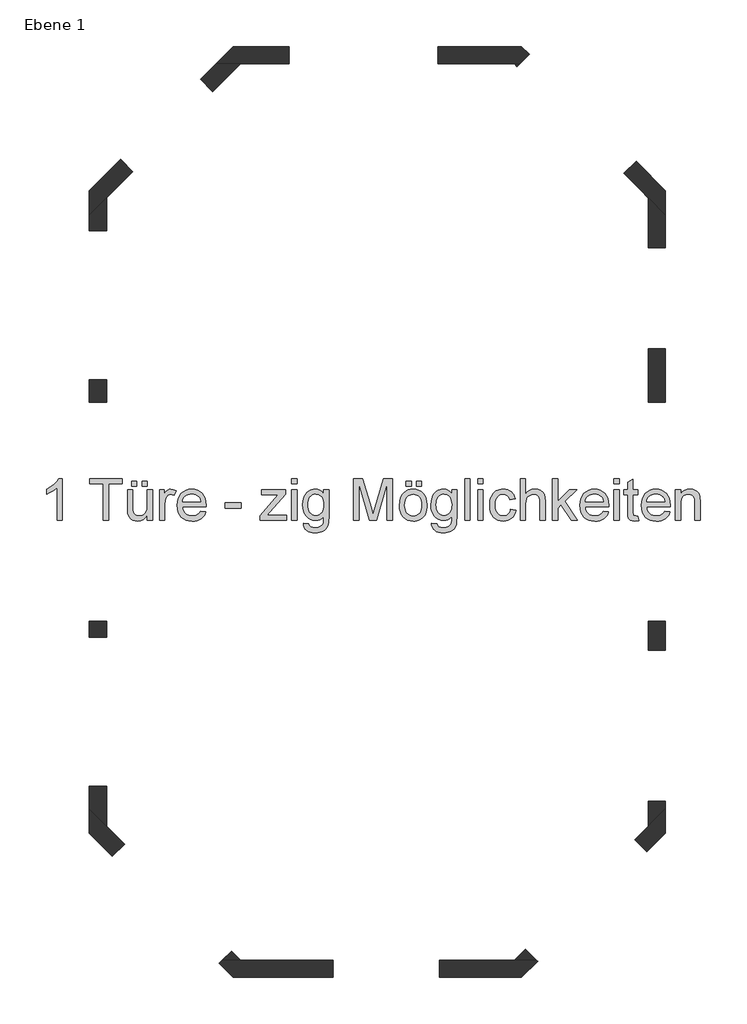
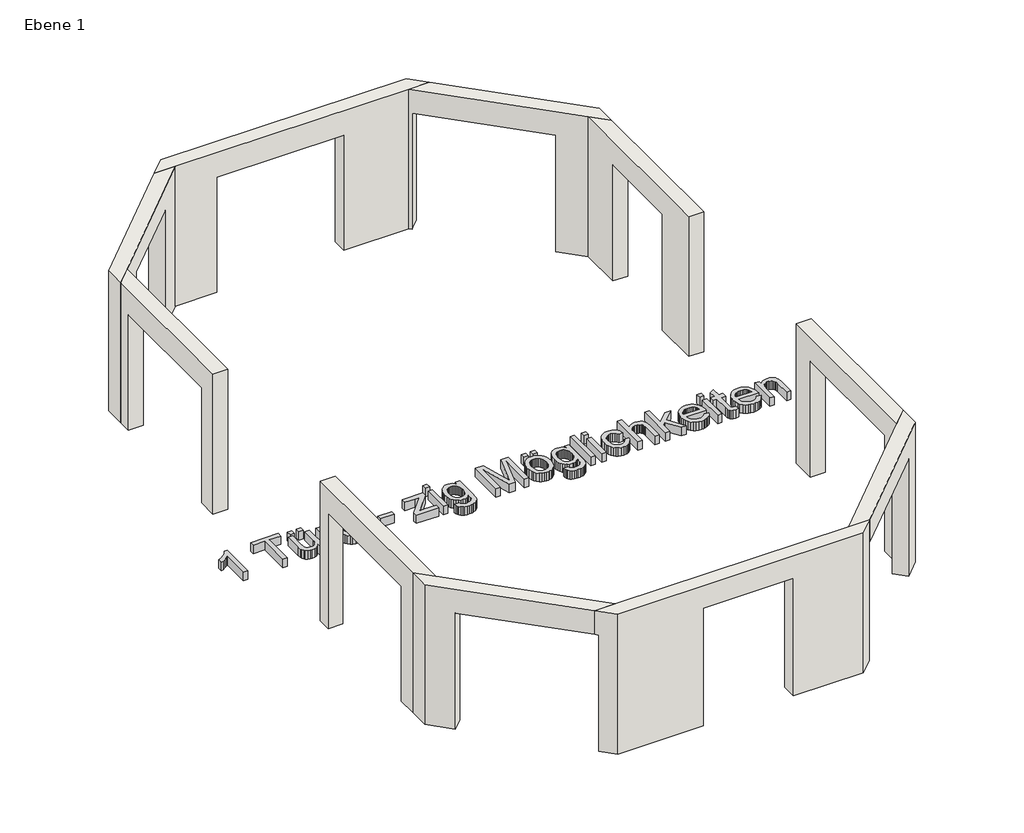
# One storey, incomplete: 10 walls, 1 proxy.
"""IFC4 building model written with IfcOpenShell, lengths in millimetres."""

import ifcopenshell
import ifcopenshell.guid

model = None  # the IFC model being written
_history = None  # IfcOwnerHistory: only IFC2X3 demands one
_inside = {}  # id of a spatial element -> (the spatial element, [elements in it])
_under = {}  # id of a project, library or spatial element -> (it, [spatial elements below it])
_declared = {}  # id of a project -> (the project, [libraries it declares])
_typed = {}  # id of a type object -> (the type object, [elements of that type])
_made_of = {}  # id of a material, layer set ... -> (it, [elements and type objects made of it])


def new_model(schema):
    """Start an empty IFC model of exactly this schema.

    Asked for "IFC4X3", IfcOpenShell would pick the latest addendum, in which some entities
    have other attributes; the version numbers below select the first issue.
    IFC2X3 requires an IfcOwnerHistory on every rooted entity: one is made here for all.
    """
    global model, _history
    if schema == "IFC4X3":
        model = ifcopenshell.file(schema_version=(4, 3, 0, 0))
    else:
        model = ifcopenshell.file(schema=schema)
    _inside.clear()
    _under.clear()
    _declared.clear()
    _typed.clear()
    _made_of.clear()
    _history = None
    if model.schema == "IFC2X3":
        org = make("IfcOrganization", Name="unknown")
        user = make(
            "IfcPersonAndOrganization",
            ThePerson=make("IfcPerson", FamilyName="unknown"),
            TheOrganization=org,
        )
        app = make(
            "IfcApplication",
            ApplicationDeveloper=org,
            Version="unknown",
            ApplicationFullName="unknown",
            ApplicationIdentifier="unknown",
        )
        _history = make(
            "IfcOwnerHistory",
            OwningUser=user,
            OwningApplication=app,
            ChangeAction="ADDED",
            CreationDate=0,
        )
    return model


def make(cls, **values):
    """One entity of the class cls with the attributes given. An attribute that is None is left unset."""
    return model.create_entity(
        cls, **{name: value for name, value in values.items() if value is not None}
    )


def rooted(cls, **values):
    """An entity with a GlobalId (a new one), such as an element, a storey or a relation."""
    return make(cls, GlobalId=ifcopenshell.guid.new(), OwnerHistory=_history, **values)


def si_unit(unit_type, name, prefix=None):
    """IfcSIUnit, for example si_unit("LENGTHUNIT", "METRE", prefix="MILLI")."""
    return make("IfcSIUnit", UnitType=unit_type, Prefix=prefix, Name=name)


def assignment(units):
    """IfcUnitAssignment: the units of a project."""
    return None if units is None else make("IfcUnitAssignment", Units=units)


def point(xyz):
    """IfcCartesianPoint."""
    return None if xyz is None else make("IfcCartesianPoint", Coordinates=xyz)


def direction(xyz):
    """IfcDirection."""
    return None if xyz is None else make("IfcDirection", DirectionRatios=xyz)


def frame(location, z_axis=None, x_axis=None):
    """IfcAxis2Placement3D, a coordinate frame: its origin and axes. An axis left out is left unset."""
    return make(
        "IfcAxis2Placement3D",
        Location=point(location),
        Axis=direction(z_axis),
        RefDirection=direction(x_axis),
    )


def origin():
    """The frame at (0, 0, 0) with its axes left unset."""
    return frame((0.0, 0.0, 0.0))


def origin_with_axes():
    """The frame at (0, 0, 0) with the z axis (0, 0, 1) and the x axis (1, 0, 0) written out."""
    return frame((0.0, 0.0, 0.0), z_axis=(0.0, 0.0, 1.0), x_axis=(1.0, 0.0, 0.0))


def place(relative_to, where):
    """IfcLocalPlacement: puts the frame where relative to a parent placement (None: the world)."""
    return make(
        "IfcLocalPlacement", PlacementRelTo=relative_to, RelativePlacement=where
    )


def context(
    kind, dimensions, precision=None, world=None, true_north=None, identifier=None
):
    """IfcGeometricRepresentationContext, for example the 3D "Model" context."""
    return make(
        "IfcGeometricRepresentationContext",
        ContextIdentifier=identifier,
        ContextType=kind,
        CoordinateSpaceDimension=dimensions,
        Precision=precision,
        WorldCoordinateSystem=world,
        TrueNorth=true_north,
    )


def project(units=None, contexts=None):
    """IfcProject with its units and contexts."""
    return rooted(
        "IfcProject",
        Name="project",
        RepresentationContexts=contexts,
        UnitsInContext=assignment(units),
    )


def spatial(cls, under=None, at=None, **own):
    """A site, building, storey or space (cls), placed at a placement, below another one or the project."""
    s = rooted(cls, ObjectPlacement=at, **own)
    if under is not None:
        _under.setdefault(under.id(), (under, []))[1].append(s)
    return s


def polyline(points):
    """IfcPolyline through the points."""
    return make("IfcPolyline", Points=[point(p) for p in points])


def outline(outer, holes=None, kind="AREA"):
    """IfcArbitraryClosedProfileDef: a profile drawn as a closed curve; with holes, ...WithVoids."""
    if holes is None:
        return make("IfcArbitraryClosedProfileDef", ProfileType=kind, OuterCurve=outer)
    return make(
        "IfcArbitraryProfileDefWithVoids",
        ProfileType=kind,
        OuterCurve=outer,
        InnerCurves=holes,
    )


def extrude(swept, where, along, depth):
    """IfcExtrudedAreaSolid: the profile swept, set in the frame where, extruded along a direction by depth."""
    return make(
        "IfcExtrudedAreaSolid",
        SweptArea=swept,
        Position=where,
        ExtrudedDirection=direction(along),
        Depth=depth,
    )


def faces_of(points, faces, orient=None, outer=None):
    """IfcFace entities. A face is a list of loops; a loop is a list of indices into points, from 0.

    orient and outer hold one flag for each loop. By default every Orientation is true, the
    first loop of a face is its IfcFaceOuterBound and the others are IfcFaceBound.
    """
    made = []
    for i, loops in enumerate(faces):
        bounds = []
        for j, loop in enumerate(loops):
            is_outer = j == 0 if outer is None else outer[i][j]
            bounds.append(
                make(
                    "IfcFaceOuterBound" if is_outer else "IfcFaceBound",
                    Bound=make("IfcPolyLoop", Polygon=[points[k] for k in loop]),
                    Orientation=True if orient is None else orient[i][j],
                )
            )
        made.append(make("IfcFace", Bounds=bounds))
    return made


def faceted_brep(points, faces, orient=None, outer=None, voids=None):
    """IfcFacetedBrep: a solid bounded by flat faces; with voids (closed shells), ...WithVoids."""
    shared = [point(p) for p in points]
    hull = make("IfcClosedShell", CfsFaces=faces_of(shared, faces, orient, outer))
    if voids is None:
        return make("IfcFacetedBrep", Outer=hull)
    return make(
        "IfcFacetedBrepWithVoids",
        Outer=hull,
        Voids=[
            make(cls, CfsFaces=faces_of(shared, fs, o, b)) for cls, fs, o, b in voids
        ],
    )


def shape(context_of_items, identifier, shape_type, items):
    """IfcShapeRepresentation: the items that make up one representation, for example the "Body"."""
    return make(
        "IfcShapeRepresentation",
        ContextOfItems=context_of_items,
        RepresentationIdentifier=identifier,
        RepresentationType=shape_type,
        Items=items,
    )


def made_of(thing, what):
    """Note that an element or type object is made of a material, layer set ...; save() writes the relation."""
    if what is not None:
        _made_of.setdefault(what.id(), (what, []))[1].append(thing)
    return thing


def element(
    cls,
    number,
    at=None,
    inside=None,
    cuts=None,
    type_object=None,
    material=None,
    context=None,
    identifier="Body",
    shape_type=None,
    held_by="IfcProductDefinitionShape",
    body=None,
    shapes=None,
    **own,
):
    """One element of the class cls, such as IfcWall. Its Tag is "e" and its number.

    at: its placement. inside: the storey or other place that contains it. cuts: it is an
    opening in that element (IfcRelVoidsElement). A single representation is given by context,
    identifier, shape_type and body (its items); several are given by shapes. held_by: the class
    of the entity that holds the representations. save() writes the other relations.
    """
    e = rooted(cls, Tag="e%d" % number, ObjectPlacement=at, **own)
    if body is not None:
        shapes = [shape(context, identifier, shape_type, body)]
    if shapes is not None:
        e.Representation = make(held_by, Representations=shapes)
    if inside is not None:
        _inside.setdefault(inside.id(), (inside, []))[1].append(e)
    if cuts is not None:
        rooted(
            "IfcRelVoidsElement", RelatingBuildingElement=cuts, RelatedOpeningElement=e
        )
    if type_object is not None:
        _typed.setdefault(type_object.id(), (type_object, []))[1].append(e)
    return made_of(e, material)


def aggregate(whole, parts):
    """IfcRelAggregates: a whole, such as a stair, and the parts it consists of."""
    return rooted("IfcRelAggregates", RelatingObject=whole, RelatedObjects=parts)


def save(model, path):
    """Write the relations noted so far, then the file.

    IfcRelAggregates (storeys below a building ...), IfcRelContainedInSpatialStructure (elements
    in a storey), IfcRelDefinesByType, IfcRelAssociatesMaterial and IfcRelDeclares: one each for
    every whole, place, type object, material and project.
    """
    for whole, parts in _under.values():
        aggregate(whole, parts)
    for where, things in _inside.values():
        rooted(
            "IfcRelContainedInSpatialStructure",
            RelatedElements=things,
            RelatingStructure=where,
        )
    for kind, things in _typed.values():
        rooted("IfcRelDefinesByType", RelatedObjects=things, RelatingType=kind)
    for what, things in _made_of.values():
        rooted("IfcRelAssociatesMaterial", RelatedObjects=things, RelatingMaterial=what)
    for by, libraries in _declared.values():
        rooted("IfcRelDeclares", RelatingContext=by, RelatedDefinitions=libraries)
    model.write(path)


model = new_model("IFC4")

# Units and contexts
model_context = context("Model", 3, world=origin())
ifc_project = project(units=[si_unit("LENGTHUNIT", "METRE", prefix="MILLI")], contexts=[model_context])

# Site, building, storey
site = spatial("IfcSite", under=ifc_project)
building = spatial("IfcBuilding", under=site)
storey = spatial("IfcBuildingStorey", under=building, Name="Ebene 1", Elevation=0.0)

# Proxy
placement = place(None, origin())
element("IfcBuildingElementProxy", 1, Name="Modelltext 1", ObjectType="Modelltext 1", at=placement, inside=storey, context=model_context, shape_type="SweptSolid", body=[
    extrude(outline(polyline([(-4901.5799407, -2031.7303365), (-4976.9221733, -2031.7303365), (-4976.9221733, -1562.0186051), (-5008.3760839, -1587.4576451), (-5048.2912804, -1612.8598968), (-5090.1930397, -1635.0615752), (-5127.6066386, -1650.8988951), (-5127.6066386, -1579.6769409), (-5068.4328196, -1547.4872663), (-5017.1684636, -1509.1907506), (-4976.7566264, -1468.4662137), (-4950.1403641, -1428.9924756), (-4901.5799407, -1428.9924756), (-4901.5799407, -2031.7303365)])), origin_with_axes(), (0.0, 0.0, 1.0), 150.0),
    extrude(outline(polyline([(-4308.2598589, -2031.7303365), (-4308.2598589, -1504.3347083), (-4506.0332195, -1504.3347083), (-4506.0332195, -1428.9924756), (-4035.1442657, -1428.9924756), (-4035.1442657, -1504.3347083), (-4232.9176263, -1504.3347083), (-4232.9176263, -2031.7303365), (-4308.2598589, -2031.7303365)])), origin_with_axes(), (0.0, 0.0, 1.0), 150.0),
    extrude(outline(polyline([(-3677.2686608, -2031.7303365), (-3677.2686608, -1955.6523399), (-3704.5287166, -1993.0567418), (-3736.2769328, -2019.7741717), (-3772.5133093, -2035.8046296), (-3813.2378462, -2041.1481156), (-3849.9340752, -2037.3957193), (-3884.0919185, -2026.1385302), (-3912.7499259, -2009.2159584), (-3932.9466474, -1988.4674139), (-3946.5398871, -1963.2674972), (-3955.3874491, -1932.990809), (-3959.8020331, -1862.9460772), (-3959.8020331, -1589.0947199), (-3884.4598005, -1589.0947199), (-3884.4598005, -1827.4822528), (-3883.3193663, -1875.1597594), (-3879.8980637, -1904.2960134), (-3868.9167862, -1929.9189944), (-3850.0996221, -1949.398346), (-3824.6973703, -1961.7039988), (-3793.9608296, -1965.805883), (-3761.4584554, -1961.6120283), (-3731.0530085, -1949.030464), (-3705.9818505, -1929.2200186), (-3689.482343, -1903.3395202), (-3680.3220813, -1867.89409), (-3677.2686608, -1819.3888489), (-3677.2686608, -1589.0947199), (-3601.9264282, -1589.0947199), (-3601.9264282, -2031.7303365), (-3677.2686608, -2031.7303365)])), origin_with_axes(), (0.0, 0.0, 1.0), 150.0),
    extrude(outline(polyline([(-3903.2953586, -1542.0058246), (-3903.2953586, -1466.663592), (-3827.953126, -1466.663592), (-3827.953126, -1542.0058246), (-3903.2953586, -1542.0058246)])), origin_with_axes(), (0.0, 0.0, 1.0), 150.0),
    extrude(outline(polyline([(-3752.6108934, -1542.0058246), (-3752.6108934, -1466.663592), (-3677.2686608, -1466.663592), (-3677.2686608, -1542.0058246), (-3752.6108934, -1542.0058246)])), origin_with_axes(), (0.0, 0.0, 1.0), 150.0),
    extrude(outline(polyline([(-3498.3308583, -2031.7303365), (-3498.3308583, -1589.0947199), (-3432.4064048, -1589.0947199), (-3432.4064048, -1654.5777151), (-3408.0526167, -1616.6122932), (-3385.611815, -1594.2450679), (-3363.0974369, -1583.3189726), (-3338.5229196, -1579.6769409), (-3300.9989561, -1585.4894764), (-3262.8863814, -1602.927083), (-3288.0495099, -1670.4702173), (-3314.5370135, -1658.8819344), (-3341.0245172, -1655.0191735), (-3363.5205012, -1658.7347816), (-3383.6252522, -1669.8816061), (-3399.8672423, -1687.6135183), (-3410.7749435, -1711.0843895), (-3419.9352052, -1753.1700898), (-3422.9886257, -1799.0817628), (-3422.9886257, -2031.7303365), (-3498.3308583, -2031.7303365)])), origin_with_axes(), (0.0, 0.0, 1.0), 150.0),
    extrude(outline(polyline([(-2905.8936933, -1899.8814295), (-2832.0229887, -1909.2992086), (-2843.3491556, -1938.886118), (-2858.639251, -1964.9597544), (-2877.8932749, -1987.5201178), (-2901.1112274, -2006.5672081), (-2928.053985, -2021.6963551), (-2958.4824245, -2032.5028887), (-2992.3965459, -2038.9868089), (-3029.7963493, -2041.1481156), (-3076.5449538, -2037.4187119), (-3118.1983927, -2026.2305007), (-3154.756666, -2007.5834821), (-3186.2197736, -1981.477656), (-3211.5208578, -1948.6395894), (-3229.5930608, -1909.7958492), (-3240.4363827, -1864.9464355), (-3244.0508233, -1814.0913482), (-3240.3995945, -1761.511814), (-3229.445908, -1715.1678797), (-3211.189764, -1675.0595452), (-3185.6311624, -1641.1868105), (-3154.2508282, -1614.2762425), (-3118.5294865, -1595.0544083), (-3078.4671372, -1583.5213077), (-3034.0637804, -1579.6769409), (-2991.0905648, -1583.5121107), (-2952.2284306, -1595.0176201), (-2917.4773776, -1614.1934691), (-2886.8374059, -1641.0396577), (-2861.8260288, -1674.838816), (-2843.9607594, -1714.8735741), (-2833.2415978, -1761.143932), (-2829.6685439, -1813.6498898), (-2830.1100023, -1833.9569759), (-3168.7085906, -1833.9569759), (-3164.3445905, -1864.022132), (-3155.6671739, -1890.3532858), (-3142.676341, -1912.9504374), (-3125.3720916, -1931.8135867), (-3104.7109191, -1946.6852163), (-3081.6493165, -1957.3078089), (-3056.1872839, -1963.6813645), (-3028.3248213, -1965.805883), (-2988.2256838, -1961.8695457), (-2954.4541167, -1950.0605336), (-2927.0101198, -1929.6430829), (-2905.8936933, -1899.8814295)]), holes=[polyline([(-3168.7085906, -1758.6147433), (-2905.0107765, -1758.6147433), (-2915.2011078, -1718.8099114), (-2923.9658963, -1703.1565326), (-2935.1771001, -1690.335845), (-2955.7233095, -1674.8848012), (-2979.1022103, -1663.8483414), (-3005.3138025, -1657.2264655), (-3034.358086, -1655.0191735), (-3060.8501882, -1656.7804085), (-3085.1441954, -1662.0641137), (-3107.2401078, -1670.870289), (-3127.1379252, -1683.1989343), (-3143.8351692, -1698.4798327), (-3156.3293615, -1716.142767), (-3164.620502, -1736.1877372), (-3168.7085906, -1758.6147433)])]), origin_with_axes(), (0.0, 0.0, 1.0), 150.0),
    extrude(outline(polyline([(-2556.5529507, -1852.7925341), (-2556.5529507, -1777.4503015), (-2321.1084738, -1777.4503015), (-2321.1084738, -1852.7925341), (-2556.5529507, -1852.7925341)])), origin_with_axes(), (0.0, 0.0, 1.0), 150.0),
    extrude(outline(polyline([(-2047.9928805, -2031.7303365), (-2047.9928805, -1960.8026879), (-1787.9738863, -1664.4369526), (-1864.9347997, -1664.4369526), (-2029.1573224, -1664.4369526), (-2029.1573224, -1589.0947199), (-1680.6994966, -1589.0947199), (-1680.6994966, -1653.1061871), (-1911.2879311, -1916.0682373), (-1946.6046027, -1956.3881039), (-1859.4901462, -1956.3881039), (-1671.2817175, -1956.3881039), (-1671.2817175, -2031.7303365), (-2047.9928805, -2031.7303365)])), origin_with_axes(), (0.0, 0.0, 1.0), 150.0),
    extrude(outline(polyline([(-1595.9394849, -1504.3347083), (-1595.9394849, -1428.9924756), (-1520.5972523, -1428.9924756), (-1520.5972523, -1504.3347083), (-1595.9394849, -1504.3347083)])), origin_with_axes(), (0.0, 0.0, 1.0), 150.0),
    extrude(outline(polyline([(-1595.9394849, -2031.7303365), (-1595.9394849, -1589.0947199), (-1520.5972523, -1589.0947199), (-1520.5972523, -2031.7303365), (-1595.9394849, -2031.7303365)])), origin_with_axes(), (0.0, 0.0, 1.0), 150.0),
    extrude(outline(polyline([(-1426.4194615, -2069.4014529), (-1351.0772289, -2078.8192319), (-1342.7630958, -2102.3636796), (-1326.6498644, -2118.5504874), (-1294.9752246, -2131.1320516), (-1253.5149238, -2135.3259064), (-1209.2955079, -2130.5802286), (-1191.4348371, -2124.6481315), (-1176.4068576, -2116.3431954), (-1153.5981739, -2093.5345117), (-1139.618658, -2063.0738825), (-1135.5351679, -2030.6634788), (-1134.4683101, -1975.2236621), (-1159.5394681, -1999.9453322), (-1187.5168938, -2017.6036679), (-1218.4005873, -2028.1986694), (-1252.1905486, -2031.7303365), (-1293.4990981, -2027.6192552), (-1329.8688319, -2015.2860114), (-1361.2997498, -1994.7306049), (-1387.791852, -1965.9530358), (-1408.8117095, -1931.4273106), (-1423.8258934, -1893.6274356), (-1432.8344038, -1852.5534108), (-1435.8372406, -1808.2052363), (-1430.4477693, -1747.3759484), (-1414.2793556, -1691.439491), (-1402.2955997, -1666.2165817), (-1387.9022166, -1644.0378959), (-1371.0992065, -1624.9034337), (-1351.8865693, -1608.8131949), (-1330.5724062, -1596.0660838), (-1307.4648183, -1586.9610044), (-1282.5638058, -1581.4979567), (-1255.8693685, -1579.6769409), (-1220.6354704, -1583.7972192), (-1188.657328, -1596.1580543), (-1159.9349412, -1616.759446), (-1134.4683101, -1645.6013944), (-1134.4683101, -1589.0947199), (-1059.1260775, -1589.0947199), (-1059.1260775, -1971.2505365), (-1064.2764254, -2059.4870331), (-1070.7143604, -2092.3067056), (-1079.7274692, -2117.5939942), (-1091.5318828, -2137.9884523), (-1106.3437316, -2156.1296332), (-1124.1630157, -2172.0175369), (-1144.9897352, -2185.6521633), (-1168.6123578, -2196.5966527), (-1194.8193514, -2204.4141451), (-1223.6107161, -2209.1046405), (-1254.9864517, -2210.668139), (-1291.8988114, -2208.4654456), (-1325.0863659, -2201.8573652), (-1354.5491152, -2190.843898), (-1380.2870593, -2175.4250439), (-1401.0769905, -2155.5824087), (-1415.6957013, -2131.2975985), (-1424.1431916, -2102.5706132), (-1426.4194615, -2069.4014529)]), holes=[polyline([(-1360.495008, -1803.0548883), (-1358.4854526, -1840.3075389), (-1352.4567864, -1872.1615211), (-1342.4090094, -1898.6168351), (-1328.3421216, -1919.6734808), (-1311.2402073, -1935.7361284), (-1292.0873509, -1947.2094482), (-1270.8835525, -1954.09344), (-1247.6288118, -1956.3881039), (-1224.6039975, -1954.1072356), (-1203.5013665, -1947.2646305), (-1184.320919, -1935.8602886), (-1167.0626549, -1919.89421), (-1152.8026291, -1899.0444979), (-1142.6168963, -1872.9892556), (-1136.5054567, -1841.7284831), (-1134.4683101, -1805.2621803), (-1136.5652375, -1770.3179893), (-1142.8560196, -1739.9447321), (-1153.3406565, -1714.1424086), (-1168.0191481, -1692.911019), (-1185.6498927, -1676.3333366), (-1204.9912886, -1664.4921349), (-1226.0433358, -1657.3874138), (-1248.8060342, -1655.0191735), (-1271.1870551, -1657.3506256), (-1291.8298336, -1664.3449821), (-1310.7343696, -1676.0022428), (-1327.9006632, -1692.3224078), (-1342.160689, -1713.2319007), (-1352.3464218, -1738.6571451), (-1358.4578614, -1768.598141), (-1360.495008, -1803.0548883)])]), origin_with_axes(), (0.0, 0.0, 1.0), 150.0),
    extrude(outline(polyline([(-701.2504726, -2031.7303365), (-701.2504726, -1428.9924756), (-571.6088575, -1428.9924756), (-448.2948127, -1853.8226037), (-423.4259898, -1942.5557409), (-396.4970278, -1846.4649638), (-275.2431222, -1428.9924756), (-145.6015071, -1428.9924756), (-145.6015071, -2031.7303365), (-220.9437397, -2031.7303365), (-220.9437397, -1504.3347083), (-372.3639689, -2031.7303365), (-474.4880108, -2031.7303365), (-625.90824, -1504.3347083), (-625.90824, -2031.7303365), (-701.2504726, -2031.7303365)])), origin_with_axes(), (0.0, 0.0, 1.0), 150.0),
    extrude(outline(polyline([(-42.0059372, -1810.4125282), (-37.9316441, -1753.0873163), (-25.7087649, -1703.6899614), (-5.3372994, -1662.2204635), (23.1827523, -1628.6788226), (51.895942, -1607.2404994), (83.5889759, -1591.9274113), (118.261854, -1582.7395585), (155.9145762, -1579.6769409), (197.4806431, -1583.4063446), (235.0643874, -1594.5945558), (268.6658092, -1613.2415744), (298.2849083, -1639.3474005), (322.4593539, -1672.0291172), (339.7268151, -1710.4038079), (350.0872917, -1754.4714724), (353.540784, -1804.2321107), (352.0140737, -1844.5611744), (347.4339429, -1880.3468955), (339.8003915, -1911.589274), (329.1134195, -1938.2883098), (315.5063842, -1961.3499123), (299.1126428, -1981.6799911), (279.9321953, -1999.278546), (257.9650416, -2014.1455772), (234.0665075, -2025.9591877), (209.0919186, -2034.397481), (183.0412748, -2039.460457), (155.9145762, -2041.1481156), (113.7415039, -2037.4325075), (75.8082717, -2026.285683), (42.1148795, -2007.7076423), (12.6613272, -1981.6983852), (-11.255601, -1948.6993702), (-28.3391211, -1909.1520558), (-38.5892332, -1863.0564418), (-42.0059372, -1810.4125282)]), holes=[polyline([(33.3362954, -1810.2653754), (35.5159962, -1846.8098531), (42.0550987, -1878.4523033), (52.9536028, -1905.1927258), (68.2115085, -1927.0311207), (86.7711552, -1943.9950792), (107.574882, -1956.1121924), (130.622689, -1963.3824604), (155.9145762, -1965.805883), (181.0777046, -1963.3686648), (204.0335411, -1956.0570101), (224.7820857, -1943.870919), (243.3233382, -1926.8103915), (258.581244, -1904.7558659), (269.4797481, -1877.5877806), (276.0188505, -1845.3061355), (278.1985514, -1807.9109307), (276.005055, -1772.5252813), (269.4245658, -1741.7105656), (258.4570838, -1715.4667838), (243.102609, -1693.7939358), (224.4923786, -1676.8299773), (203.7576296, -1664.7128641), (180.8983622, -1657.4425961), (155.9145762, -1655.0191735), (130.622689, -1657.4333991), (107.574882, -1664.6760759), (86.7711552, -1676.7472038), (68.2115085, -1693.646783), (52.9536028, -1715.4207986), (42.0550987, -1742.1152358), (35.5159962, -1773.7300948), (33.3362954, -1810.2653754)])]), origin_with_axes(), (0.0, 0.0, 1.0), 150.0),
    extrude(outline(polyline([(52.1718535, -1542.0058246), (52.1718535, -1466.663592), (127.5140861, -1466.663592), (127.5140861, -1542.0058246), (52.1718535, -1542.0058246)])), origin_with_axes(), (0.0, 0.0, 1.0), 150.0),
    extrude(outline(polyline([(202.8563188, -1542.0058246), (202.8563188, -1466.663592), (278.1985514, -1466.663592), (278.1985514, -1542.0058246), (202.8563188, -1542.0058246)])), origin_with_axes(), (0.0, 0.0, 1.0), 150.0),
    extrude(outline(polyline([(419.4652375, -2069.4014529), (494.8074701, -2078.8192319), (503.1216032, -2102.3636796), (519.2348346, -2118.5504874), (550.9094744, -2131.1320516), (592.3697752, -2135.3259064), (636.5891911, -2130.5802286), (654.4498619, -2124.6481315), (669.4778414, -2116.3431954), (692.2865251, -2093.5345117), (706.266041, -2063.0738825), (710.3495311, -2030.6634788), (711.4163889, -1975.2236621), (686.3452309, -1999.9453322), (658.3678052, -2017.6036679), (627.4841117, -2028.1986694), (593.6941504, -2031.7303365), (552.3856009, -2027.6192552), (516.0158671, -2015.2860114), (484.5849492, -1994.7306049), (458.092847, -1965.9530358), (437.0729895, -1931.4273106), (422.0588056, -1893.6274356), (413.0502952, -1852.5534108), (410.0474584, -1808.2052363), (415.4369297, -1747.3759484), (431.6053434, -1691.439491), (443.5890993, -1666.2165817), (457.9824824, -1644.0378959), (474.7854925, -1624.9034337), (493.9981297, -1608.8131949), (515.3122928, -1596.0660838), (538.4198807, -1586.9610044), (563.3208932, -1581.4979567), (590.0153305, -1579.6769409), (625.2492286, -1583.7972192), (657.227371, -1596.1580543), (685.9497578, -1616.759446), (711.4163889, -1645.6013944), (711.4163889, -1589.0947199), (786.7586215, -1589.0947199), (786.7586215, -1971.2505365), (781.6082736, -2059.4870331), (775.1703386, -2092.3067056), (766.1572298, -2117.5939942), (754.3528162, -2137.9884523), (739.5409674, -2156.1296332), (721.7216833, -2172.0175369), (700.8949638, -2185.6521633), (677.2723412, -2196.5966527), (651.0653476, -2204.4141451), (622.2739829, -2209.1046405), (590.8982473, -2210.668139), (553.9858876, -2208.4654456), (520.7983331, -2201.8573652), (491.3355838, -2190.843898), (465.5976397, -2175.4250439), (444.8077085, -2155.5824087), (430.1889977, -2131.2975985), (421.7415074, -2102.5706132), (419.4652375, -2069.4014529)]), holes=[polyline([(485.389691, -1803.0548883), (487.3992464, -1840.3075389), (493.4279126, -1872.1615211), (503.4756896, -1898.6168351), (517.5425774, -1919.6734808), (534.6444917, -1935.7361284), (553.797348, -1947.2094482), (575.0011465, -1954.09344), (598.2558872, -1956.3881039), (621.2807015, -1954.1072356), (642.3833325, -1947.2646305), (661.56378, -1935.8602886), (678.8220441, -1919.89421), (693.0820699, -1899.0444979), (703.2678027, -1872.9892556), (709.3792423, -1841.7284831), (711.4163889, -1805.2621803), (709.3194615, -1770.3179893), (703.0286794, -1739.9447321), (692.5440425, -1714.1424086), (677.8655509, -1692.911019), (660.2348063, -1676.3333366), (640.8934104, -1664.4921349), (619.8413632, -1657.3874138), (597.0786648, -1655.0191735), (574.6976439, -1657.3506256), (554.0548654, -1664.3449821), (535.1503294, -1676.0022428), (517.9840358, -1692.3224078), (503.72401, -1713.2319007), (493.5382772, -1738.6571451), (487.4268376, -1768.598141), (485.389691, -1803.0548883)])]), origin_with_axes(), (0.0, 0.0, 1.0), 150.0),
    extrude(outline(polyline([(899.7719704, -2031.7303365), (899.7719704, -1428.9924756), (975.114203, -1428.9924756), (975.114203, -2031.7303365), (899.7719704, -2031.7303365)])), origin_with_axes(), (0.0, 0.0, 1.0), 150.0),
    extrude(outline(polyline([(1088.1275519, -1504.3347083), (1088.1275519, -1428.9924756), (1163.4697846, -1428.9924756), (1163.4697846, -1504.3347083), (1088.1275519, -1504.3347083)])), origin_with_axes(), (0.0, 0.0, 1.0), 150.0),
    extrude(outline(polyline([(1088.1275519, -2031.7303365), (1088.1275519, -1589.0947199), (1163.4697846, -1589.0947199), (1163.4697846, -2031.7303365), (1088.1275519, -2031.7303365)])), origin_with_axes(), (0.0, 0.0, 1.0), 150.0),
    extrude(outline(polyline([(1559.0165058, -1871.6280922), (1634.3587384, -1881.0458713), (1626.1641669, -1916.5970676), (1613.3526765, -1948.0555767), (1595.9242669, -1975.4213987), (1573.8789384, -1998.6945334), (1548.1455928, -2017.2679756), (1519.6531323, -2030.5347201), (1488.4015568, -2038.4947667), (1454.3908663, -2041.1481156), (1412.1350207, -2037.446303), (1374.2477737, -2026.3408653), (1340.7291254, -2007.8318024), (1311.5790758, -1981.9191144), (1287.9840443, -1949.0902449), (1271.1304504, -1909.8326374), (1261.0182941, -1864.1462922), (1257.6475753, -1812.031209), (1263.4049285, -1744.9847154), (1270.6016201, -1714.8137933), (1280.6769882, -1686.8777543), (1293.7000108, -1661.7376184), (1309.7396658, -1639.9544058), (1328.7959532, -1621.5281163), (1350.8688729, -1606.4587501), (1374.9605451, -1594.7417086), (1400.0730898, -1586.3723932), (1426.206507, -1581.350804), (1453.3607968, -1579.6769409), (1486.7874745, -1581.9762033), (1517.022776, -1588.8739908), (1544.0667012, -1600.3703031), (1567.9192501, -1616.4651404), (1588.1757524, -1636.7906206), (1604.4315381, -1660.9788618), (1616.686607, -1689.0298639), (1624.9409593, -1720.943627), (1549.5987267, -1730.3614061), (1535.9319106, -1697.4911498), (1514.6499372, -1673.928308), (1486.9300288, -1659.7464571), (1453.9494079, -1655.0191735), (1428.3494196, -1657.3460271), (1405.2602259, -1664.326588), (1384.6818268, -1675.9608561), (1366.6142223, -1692.2488314), (1351.903541, -1713.567593), (1341.3959115, -1740.29422), (1335.0913338, -1772.4287122), (1332.9898079, -1809.9710699), (1335.0453486, -1848.079046), (1341.2119705, -1880.5860188), (1351.4896738, -1907.4919882), (1365.8784583, -1928.7969543), (1383.5873778, -1944.9883606), (1403.8254861, -1956.5536508), (1426.5927831, -1963.492825), (1451.8892688, -1965.805883), (1490.9031544, -1960.0301357), (1507.7751424, -1952.8104515), (1522.8904938, -1942.7028937), (1535.8261445, -1929.5970976), (1546.15903, -1913.3826987), (1553.8891505, -1894.0596969), (1559.0165058, -1871.6280922)])), origin_with_axes(), (0.0, 0.0, 1.0), 150.0),
    extrude(outline(polyline([(1700.2831919, -2031.7303365), (1700.2831919, -1428.9924756), (1775.6254245, -1428.9924756), (1775.6254245, -1650.6045895), (1803.2993476, -1619.5737432), (1834.3761792, -1597.408853), (1868.8559192, -1584.1099189), (1906.7385676, -1579.6769409), (1952.2455704, -1584.5145891), (1991.3514265, -1599.0275338), (2022.1431495, -1622.0753408), (2042.707753, -1652.5175759), (2054.2960359, -1694.3457588), (2058.1587968, -1751.551409), (2058.1587968, -2031.7303365), (1982.8165642, -2031.7303365), (1982.8165642, -1759.3505073), (1981.3174451, -1733.9114674), (1976.8200877, -1712.1880355), (1969.324492, -1694.1802119), (1958.8306581, -1679.8879964), (1945.5869063, -1669.0078864), (1929.8415569, -1661.2363792), (1911.5946099, -1656.5734749), (1890.8460654, -1655.0191735), (1859.0058787, -1659.2130282), (1829.1154666, -1671.7945925), (1804.3570084, -1691.5498556), (1787.9126832, -1717.2648071), (1778.6972392, -1751.4410444), (1775.6254245, -1796.5801652), (1775.6254245, -2031.7303365), (1700.2831919, -2031.7303365)])), origin_with_axes(), (0.0, 0.0, 1.0), 150.0),
    extrude(outline(polyline([(2161.7543667, -2031.7303365), (2161.7543667, -1428.9924756), (2237.0965993, -1428.9924756), (2237.0965993, -1752.8757842), (2406.0280115, -1589.0947199), (2510.2121925, -1589.0947199), (2339.2206411, -1754.9359234), (2519.6299716, -2031.7303365), (2431.6325983, -2031.7303365), (2285.2155642, -1807.3223195), (2237.0965993, -1853.9697565), (2237.0965993, -2031.7303365), (2161.7543667, -2031.7303365)])), origin_with_axes(), (0.0, 0.0, 1.0), 150.0),
    extrude(outline(polyline([(2895.4582178, -1899.8814295), (2969.3289225, -1909.2992086), (2958.0027556, -1938.886118), (2942.7126601, -1964.9597544), (2923.4586362, -1987.5201178), (2900.2406838, -2006.5672081), (2873.2979262, -2021.6963551), (2842.8694866, -2032.5028887), (2808.9553652, -2038.9868089), (2771.5555619, -2041.1481156), (2724.8069573, -2037.4187119), (2683.1535184, -2026.2305007), (2646.5952452, -2007.5834821), (2615.1321375, -1981.477656), (2589.8310533, -1948.6395894), (2571.7588503, -1909.7958492), (2560.9155285, -1864.9464355), (2557.3010879, -1814.0913482), (2560.9523167, -1761.511814), (2571.9060031, -1715.1678797), (2590.1621471, -1675.0595452), (2615.7207487, -1641.1868105), (2647.1010829, -1614.2762425), (2682.8224246, -1595.0544083), (2722.8847739, -1583.5213077), (2767.2881307, -1579.6769409), (2810.2613463, -1583.5121107), (2849.1234806, -1595.0176201), (2883.8745335, -1614.1934691), (2914.5145052, -1641.0396577), (2939.5258823, -1674.838816), (2957.3911517, -1714.8735741), (2968.1103134, -1761.143932), (2971.6833672, -1813.6498898), (2971.2419089, -1833.9569759), (2632.6433205, -1833.9569759), (2637.0073207, -1864.022132), (2645.6847372, -1890.3532858), (2658.6755702, -1912.9504374), (2675.9798195, -1931.8135867), (2696.6409921, -1946.6852163), (2719.7025947, -1957.3078089), (2745.1646272, -1963.6813645), (2773.0270899, -1965.805883), (2813.1262273, -1961.8695457), (2846.8977945, -1950.0605336), (2874.3417913, -1929.6430829), (2895.4582178, -1899.8814295)]), holes=[polyline([(2632.6433205, -1758.6147433), (2896.3411346, -1758.6147433), (2886.1508034, -1718.8099114), (2877.3860148, -1703.1565326), (2866.174811, -1690.335845), (2845.6286016, -1674.8848012), (2822.2497008, -1663.8483414), (2796.0381087, -1657.2264655), (2766.9938251, -1655.0191735), (2740.501723, -1656.7804085), (2716.2077157, -1662.0641137), (2694.1118034, -1670.870289), (2674.2139859, -1683.1989343), (2657.5167419, -1698.4798327), (2645.0225496, -1716.142767), (2636.7314092, -1736.1877372), (2632.6433205, -1758.6147433)])]), origin_with_axes(), (0.0, 0.0, 1.0), 150.0),
    extrude(outline(polyline([(3047.0255999, -1504.3347083), (3047.0255999, -1428.9924756), (3122.3678325, -1428.9924756), (3122.3678325, -1504.3347083), (3047.0255999, -1504.3347083)])), origin_with_axes(), (0.0, 0.0, 1.0), 150.0),
    extrude(outline(polyline([(3047.0255999, -2031.7303365), (3047.0255999, -1589.0947199), (3122.3678325, -1589.0947199), (3122.3678325, -2031.7303365), (3047.0255999, -2031.7303365)])), origin_with_axes(), (0.0, 0.0, 1.0), 150.0),
    extrude(outline(polyline([(3395.4834257, -1968.8960918), (3404.9012048, -2033.9376285), (3348.5416831, -2041.1481156), (3312.378883, -2038.0211187), (3285.4131327, -2028.6401278), (3266.3568454, -2014.1823654), (3253.9224339, -1995.8250538), (3247.0798288, -1964.2975668), (3244.7989605, -1910.3292781), (3244.7989605, -1664.4369526), (3188.292286, -1664.4369526), (3188.292286, -1589.0947199), (3244.7989605, -1589.0947199), (3244.7989605, -1481.5260246), (3320.1411931, -1437.2330323), (3320.1411931, -1589.0947199), (3395.4834257, -1589.0947199), (3395.4834257, -1664.4369526), (3320.1411931, -1664.4369526), (3320.1411931, -1908.1219862), (3324.1143186, -1946.9703249), (3336.9901885, -1960.7291115), (3347.8611014, -1964.5366901), (3362.6683517, -1965.805883), (3395.4834257, -1968.8960918)])), origin_with_axes(), (0.0, 0.0, 1.0), 150.0),
    extrude(outline(polyline([(3780.729451, -1899.8814295), (3854.6001557, -1909.2992086), (3843.2739887, -1938.886118), (3827.9838933, -1964.9597544), (3808.7298694, -1987.5201178), (3785.511917, -2006.5672081), (3758.5691594, -2021.6963551), (3728.1407198, -2032.5028887), (3694.2265984, -2038.9868089), (3656.8267951, -2041.1481156), (3610.0781905, -2037.4187119), (3568.4247516, -2026.2305007), (3531.8664784, -2007.5834821), (3500.4033707, -1981.477656), (3475.1022865, -1948.6395894), (3457.0300835, -1909.7958492), (3446.1867617, -1864.9464355), (3442.5723211, -1814.0913482), (3446.2235499, -1761.511814), (3457.1772363, -1715.1678797), (3475.4333803, -1675.0595452), (3500.9919819, -1641.1868105), (3532.3723161, -1614.2762425), (3568.0936578, -1595.0544083), (3608.1560071, -1583.5213077), (3652.5593639, -1579.6769409), (3695.5325795, -1583.5121107), (3734.3947137, -1595.0176201), (3769.1457667, -1614.1934691), (3799.7857384, -1641.0396577), (3824.7971155, -1674.838816), (3842.6623849, -1714.8735741), (3853.3815466, -1761.143932), (3856.9546004, -1813.6498898), (3856.513142, -1833.9569759), (3517.9145537, -1833.9569759), (3522.2785539, -1864.022132), (3530.9559704, -1890.3532858), (3543.9468034, -1912.9504374), (3561.2510527, -1931.8135867), (3581.9122253, -1946.6852163), (3604.9738278, -1957.3078089), (3630.4358604, -1963.6813645), (3658.298323, -1965.805883), (3698.3974605, -1961.8695457), (3732.1690277, -1950.0605336), (3759.6130245, -1929.6430829), (3780.729451, -1899.8814295)]), holes=[polyline([(3517.9145537, -1758.6147433), (3781.6123678, -1758.6147433), (3771.4220366, -1718.8099114), (3762.657248, -1703.1565326), (3751.4460442, -1690.335845), (3730.8998348, -1674.8848012), (3707.520934, -1663.8483414), (3681.3093418, -1657.2264655), (3652.2650583, -1655.0191735), (3625.7729561, -1656.7804085), (3601.4789489, -1662.0641137), (3579.3830366, -1670.870289), (3559.4852191, -1683.1989343), (3542.7879751, -1698.4798327), (3530.2937828, -1716.142767), (3522.0026424, -1736.1877372), (3517.9145537, -1758.6147433)])]), origin_with_axes(), (0.0, 0.0, 1.0), 150.0),
    extrude(outline(polyline([(3932.2968331, -2031.7303365), (3932.2968331, -1589.0947199), (4007.6390657, -1589.0947199), (4007.6390657, -1650.8988951), (4033.8138696, -1619.7392901), (4065.2493861, -1597.4824294), (4101.9456151, -1584.128313), (4143.9025567, -1579.6769409), (4181.0402441, -1583.2637903), (4215.0509345, -1594.0243387), (4243.4146364, -1610.6158167), (4263.6113579, -1631.695455), (4277.3149622, -1657.2080714), (4286.1993124, -1687.0984835), (4290.172438, -1759.9391185), (4290.172438, -2031.7303365), (4214.8302054, -2031.7303365), (4214.8302054, -1770.0926616), (4212.6597016, -1731.1339583), (4206.1481903, -1703.4324441), (4194.1368431, -1683.5852104), (4175.4668319, -1668.1893489), (4151.5361081, -1658.3117173), (4123.7426233, -1655.0191735), (4100.8649618, -1656.8677805), (4079.615178, -1662.4136016), (4059.9932721, -1671.6566367), (4041.999244, -1684.5968859), (4026.966666, -1702.7058771), (4016.2291103, -1727.4551383), (4009.7865768, -1758.8446696), (4007.6390657, -1796.8744708), (4007.6390657, -2031.7303365), (3932.2968331, -2031.7303365)])), origin_with_axes(), (0.0, 0.0, 1.0), 150.0),
])

# Walls
element("IfcWall", 2, ObjectType="Wand 1", at=placement, inside=storey, context=model_context, shape_type="Brep", body=[
    faceted_brep([(1968.0802389, 4542.2147691, 2500.0), (1614.5268483, 4542.2147691, 2500.0), (-2333.6964564, 4542.2147691, 2500.0), (-2687.249847, 4542.2147691, 2500.0), (-2687.249847, 4542.2147691, 0.0), (-2333.6964564, 4542.2147691, 0.0), (-1633.2225392, 4542.2147691, 0.0), (-1633.2225392, 4542.2147691, 2061.0), (514.7774608, 4542.2147691, 2061.0), (514.7774608, 4542.2147691, 0.0), (1614.5268483, 4542.2147691, 0.0), (1689.9202406, 4542.2147691, 0.0), (1689.9202406, 4542.2147691, 2076.0), (1968.0802389, 4542.2147691, 2076.0), (-2437.249847, 4792.2147691, 2500.0), (1718.0802389, 4792.2147691, 2500.0), (1718.0802389, 4792.2147691, 0.0), (514.7774608, 4792.2147691, 0.0), (514.7774608, 4792.2147691, 2061.0), (-1633.2225392, 4792.2147691, 2061.0), (-1633.2225392, 4792.2147691, 0.0), (-2437.249847, 4792.2147691, 0.0), (1829.0002397, 4681.2947682, 0.0), (1829.0002397, 4681.2947682, 2076.0)], [[[0, 1, 2, 3, 4, 5, 6, 7, 8, 9, 10, 11, 12, 13]], [[14, 15, 16, 17, 18, 19, 20, 21]], [[4, 21, 20, 6, 5]], [[17, 16, 22, 11, 10, 9]], [[3, 2, 1, 0, 15, 14]], [[16, 15, 0, 13, 23, 22]], [[4, 3, 14, 21]], [[8, 18, 17, 9]], [[18, 8, 7, 19]], [[19, 7, 6, 20]], [[23, 12, 11, 22]], [[12, 23, 13]]]),
])
element("IfcWall", 3, ObjectType="Wand 1", at=placement, inside=storey, context=model_context, shape_type="Brep", body=[
    faceted_brep([(3791.3035436, 2365.4380738, 2500.0), (3541.3035436, 2615.4380738, 2500.0), (1614.5268483, 4542.2147691, 2500.0), (1614.5268483, 4542.2147691, 0.0), (1652.2235444, 4504.5180729, 0.0), (1652.2235444, 4504.5180729, 2076.0), (3192.3021139, 2964.4395035, 2076.0), (3192.3021139, 2964.4395035, 0.0), (3541.3035436, 2615.4380738, 0.0), (3791.3035436, 2365.4380738, 0.0), (1968.0802389, 4542.2147691, 2500.0), (3791.3035436, 2718.9914644, 2500.0), (3791.3035436, 2718.9914644, 0.0), (3369.0788092, 3141.2161988, 0.0), (3369.0788092, 3141.2161988, 2076.0), (1968.0802389, 4542.2147691, 2076.0), (1689.9202406, 4542.2147691, 0.0), (1689.9202406, 4542.2147691, 2076.0)], [[[0, 1, 2, 3, 4, 5, 6, 7, 8, 9]], [[10, 11, 12, 13, 14, 15]], [[12, 9, 8, 7, 13]], [[4, 3, 16]], [[2, 1, 0, 11, 10]], [[3, 2, 10, 15, 17, 16]], [[0, 9, 12, 11]], [[17, 5, 4, 16]], [[5, 17, 15, 14, 6]], [[6, 14, 13, 7]]]),
])
element("IfcWall", 4, ObjectType="Wand 1", at=placement, inside=storey, context=model_context, shape_type="Brep", body=[
    faceted_brep([(3541.3035436, -332.7852309, 0.0), (3541.3035436, -332.7852309, 2500.0), (3541.3035436, 2615.4380738, 2500.0), (3541.3035436, 2615.4380738, 0.0), (3541.3035436, 1893.2147691, 0.0), (3541.3035436, 1893.2147691, 2076.0), (3541.3035436, 441.2147691, 2076.0), (3541.3035436, 441.2147691, 0.0), (3791.3035436, -332.7852309, 2500.0), (3791.3035436, -332.7852309, 0.0), (3791.3035436, 441.2147691, 0.0), (3791.3035436, 441.2147691, 2076.0), (3791.3035436, 1893.2147691, 2076.0), (3791.3035436, 1893.2147691, 0.0), (3791.3035436, 2365.4380738, 0.0), (3791.3035436, 2365.4380738, 2500.0)], [[[0, 1, 2, 3, 4, 5, 6, 7]], [[8, 9, 10, 11, 12, 13, 14, 15]], [[9, 0, 7, 10]], [[3, 14, 13, 4]], [[1, 0, 9, 8]], [[2, 1, 8, 15]], [[3, 2, 15, 14]], [[6, 11, 10, 7]], [[11, 6, 5, 12]], [[12, 5, 4, 13]]]),
])
element("IfcWall", 5, ObjectType="Wand 1", at=placement, inside=storey, context=model_context, shape_type="Brep", body=[
    faceted_brep([(-4510.4731517, 2718.9914644, 2500.0), (-2687.249847, 4542.2147691, 2500.0), (-2687.249847, 4542.2147691, 0.0), (-2909.583538, 4319.8810781, 0.0), (-2909.583538, 4319.8810781, 2101.0), (-4060.7533778, 3168.7112383, 2101.0), (-4060.7533778, 3168.7112383, 0.0), (-4510.4731517, 2718.9914644, 0.0), (-2333.6964564, 4542.2147691, 2500.0), (-4260.4731517, 2615.4380738, 2500.0), (-4510.4731517, 2365.4380738, 2500.0), (-4510.4731517, 2365.4380738, 0.0), (-4260.4731517, 2615.4380738, 0.0), (-3883.9766825, 2991.934543, 0.0), (-3883.9766825, 2991.934543, 2101.0), (-2732.8068427, 4143.1043828, 2101.0), (-2732.8068427, 4143.1043828, 0.0), (-2333.6964564, 4542.2147691, 0.0)], [[[0, 1, 2, 3, 4, 5, 6, 7]], [[8, 9, 10, 11, 12, 13, 14, 15, 16, 17]], [[11, 7, 6, 13, 12]], [[2, 17, 16, 3]], [[1, 0, 10, 9, 8]], [[0, 7, 11, 10]], [[2, 1, 8, 17]], [[5, 14, 13, 6]], [[14, 5, 4, 15]], [[15, 4, 3, 16]]]),
])
element("IfcWall", 6, ObjectType="Wand 1", at=placement, inside=storey, context=model_context, shape_type="Brep", body=[
    faceted_brep([(-4510.4731517, -332.7852309, 0.0), (-4510.4731517, -332.7852309, 2500.0), (-4510.4731517, 2365.4380738, 2500.0), (-4510.4731517, 2365.4380738, 0.0), (-4510.4731517, 2141.2147691, 0.0), (-4510.4731517, 2141.2147691, 2061.0), (-4510.4731517, -6.7852309, 2061.0), (-4510.4731517, -6.7852309, 0.0), (-4260.4731517, -332.7852309, 2500.0), (-4260.4731517, -332.7852309, 0.0), (-4260.4731517, -6.7852309, 0.0), (-4260.4731517, -6.7852309, 2061.0), (-4260.4731517, 2141.2147691, 2061.0), (-4260.4731517, 2141.2147691, 0.0), (-4260.4731517, 2615.4380738, 0.0), (-4260.4731517, 2615.4380738, 2500.0)], [[[0, 1, 2, 3, 4, 5, 6, 7]], [[8, 9, 10, 11, 12, 13, 14, 15]], [[9, 0, 7, 10]], [[3, 14, 13, 4]], [[1, 0, 9, 8]], [[2, 1, 8, 15]], [[3, 2, 15, 14]], [[12, 5, 4, 13]], [[5, 12, 11, 6]], [[6, 11, 10, 7]]]),
])
element("IfcWall", 7, ObjectType="Wand 1", at=placement, inside=storey, context=model_context, shape_type="Brep", body=[
    faceted_brep([(-2687.249847, -8361.069046, 2500.0), (-2333.6964564, -8361.069046, 2500.0), (1614.5268483, -8361.069046, 2500.0), (1968.0802389, -8361.069046, 2500.0), (1968.0802389, -8361.069046, 2101.0), (1930.5916994, -8361.069046, 2101.0), (1930.5916994, -8361.069046, 0.0), (1614.5268483, -8361.069046, 0.0), (531.5615591, -8361.069046, 0.0), (531.5615591, -8361.069046, 2105.0), (-996.4384409, -8361.069046, 2105.0), (-996.4384409, -8361.069046, 0.0), (-2333.6964564, -8361.069046, 0.0), (-2594.2159694, -8361.069046, 0.0), (-2594.2159694, -8361.069046, 2076.0), (-2687.249847, -8361.069046, 2076.0), (1718.0802389, -8611.069046, 2500.0), (-2437.249847, -8611.069046, 2500.0), (-2437.249847, -8611.069046, 0.0), (-996.4384409, -8611.069046, 0.0), (-996.4384409, -8611.069046, 2105.0), (531.5615591, -8611.069046, 2105.0), (531.5615591, -8611.069046, 0.0), (1718.0802389, -8611.069046, 0.0), (-2640.7329082, -8407.5859847, 0.0), (1949.3359692, -8379.8133157, 0.0), (-2640.7329082, -8407.5859847, 2076.0), (1949.3359692, -8379.8133157, 2101.0)], [[[0, 1, 2, 3, 4, 5, 6, 7, 8, 9, 10, 11, 12, 13, 14, 15]], [[16, 17, 18, 19, 20, 21, 22, 23]], [[18, 24, 13, 12, 11, 19]], [[23, 22, 8, 7, 6, 25]], [[3, 2, 1, 0, 17, 16]], [[18, 17, 0, 15, 26, 24]], [[3, 16, 23, 25, 27, 4]], [[26, 14, 13, 24]], [[14, 26, 15]], [[10, 20, 19, 11]], [[20, 10, 9, 21]], [[21, 9, 8, 22]], [[27, 5, 4]], [[5, 27, 25, 6]]]),
])
element("IfcWall", 8, ObjectType="Wand 1", at=placement, inside=storey, context=model_context, shape_type="Brep", body=[
    faceted_brep([(-4510.4731517, -6184.2923507, 2500.0), (-4260.4731517, -6434.2923507, 2500.0), (-2333.6964564, -8361.069046, 2500.0), (-2333.6964564, -8361.069046, 0.0), (-2463.9562129, -8230.8092895, 0.0), (-2463.9562129, -8230.8092895, 2076.0), (-4004.0347823, -6690.73072, 2076.0), (-4004.0347823, -6690.73072, 0.0), (-4260.4731517, -6434.2923507, 0.0), (-4510.4731517, -6184.2923507, 0.0), (-2687.249847, -8361.069046, 2500.0), (-4510.4731517, -6537.8457413, 2500.0), (-4510.4731517, -6537.8457413, 0.0), (-4180.8114776, -6867.5074153, 0.0), (-4180.8114776, -6867.5074153, 2076.0), (-2687.249847, -8361.069046, 2076.0), (-2594.2159694, -8361.069046, 0.0), (-2594.2159694, -8361.069046, 2076.0)], [[[0, 1, 2, 3, 4, 5, 6, 7, 8, 9]], [[10, 11, 12, 13, 14, 15]], [[12, 9, 8, 7, 13]], [[4, 3, 16]], [[2, 1, 0, 11, 10]], [[3, 2, 10, 15, 17, 16]], [[0, 9, 12, 11]], [[17, 5, 4, 16]], [[5, 17, 15, 14, 6]], [[6, 14, 13, 7]]]),
])
element("IfcWall", 9, ObjectType="Wand 1", at=placement, inside=storey, context=model_context, shape_type="Brep", body=[
    faceted_brep([(-4260.4731517, -3486.069046, 0.0), (-4260.4731517, -3486.069046, 2500.0), (-4260.4731517, -6434.2923507, 2500.0), (-4260.4731517, -6434.2923507, 0.0), (-4260.4731517, -5860.069046, 0.0), (-4260.4731517, -5860.069046, 2061.0), (-4260.4731517, -3712.069046, 2061.0), (-4260.4731517, -3712.069046, 0.0), (-4510.4731517, -3486.069046, 2500.0), (-4510.4731517, -3486.069046, 0.0), (-4510.4731517, -3712.069046, 0.0), (-4510.4731517, -3712.069046, 2061.0), (-4510.4731517, -5860.069046, 2061.0), (-4510.4731517, -5860.069046, 0.0), (-4510.4731517, -6184.2923507, 0.0), (-4510.4731517, -6184.2923507, 2500.0)], [[[0, 1, 2, 3, 4, 5, 6, 7]], [[8, 9, 10, 11, 12, 13, 14, 15]], [[9, 0, 7, 10]], [[3, 14, 13, 4]], [[1, 0, 9, 8]], [[2, 1, 8, 15]], [[3, 2, 15, 14]], [[6, 11, 10, 7]], [[11, 6, 5, 12]], [[12, 5, 4, 13]]]),
])
element("IfcWall", 10, ObjectType="Wand 1", at=placement, inside=storey, context=model_context, shape_type="Brep", body=[
    faceted_brep([(3791.3035436, -6537.8457413, 2500.0), (1968.0802389, -8361.069046, 2500.0), (1968.0802389, -8361.069046, 2101.0), (3524.7698776, -6804.3794072, 2101.0), (3524.7698776, -6804.3794072, 0.0), (3791.3035436, -6537.8457413, 0.0), (1614.5268483, -8361.069046, 2500.0), (3541.3035436, -6434.2923507, 2500.0), (3791.3035436, -6184.2923507, 2500.0), (3791.3035436, -6184.2923507, 0.0), (3541.3035436, -6434.2923507, 0.0), (3347.9931823, -6627.6027119, 0.0), (3347.9931823, -6627.6027119, 2101.0), (1772.5592739, -8203.0366204, 2101.0), (1772.5592739, -8203.0366204, 0.0), (1614.5268483, -8361.069046, 0.0), (1930.5916994, -8361.069046, 0.0), (1930.5916994, -8361.069046, 2101.0)], [[[0, 1, 2, 3, 4, 5]], [[6, 7, 8, 9, 10, 11, 12, 13, 14, 15]], [[9, 5, 4, 11, 10]], [[15, 14, 16]], [[1, 0, 8, 7, 6]], [[0, 5, 9, 8]], [[1, 6, 15, 16, 17, 2]], [[3, 12, 11, 4]], [[12, 3, 2, 17, 13]], [[13, 17, 16, 14]]]),
])
element("IfcWall", 11, ObjectType="Wand 1", at=placement, inside=storey, context=model_context, shape_type="Brep", body=[
    faceted_brep([(3791.3035436, -3486.069046, 0.0), (3791.3035436, -3486.069046, 2500.0), (3791.3035436, -6184.2923507, 2500.0), (3791.3035436, -6184.2923507, 0.0), (3791.3035436, -6075.069046, 0.0), (3791.3035436, -6075.069046, 2076.0), (3791.3035436, -3897.069046, 2076.0), (3791.3035436, -3897.069046, 0.0), (3541.3035436, -3486.069046, 2500.0), (3541.3035436, -3486.069046, 0.0), (3541.3035436, -3897.069046, 0.0), (3541.3035436, -3897.069046, 2076.0), (3541.3035436, -6075.069046, 2076.0), (3541.3035436, -6075.069046, 0.0), (3541.3035436, -6434.2923507, 0.0), (3541.3035436, -6434.2923507, 2500.0)], [[[0, 1, 2, 3, 4, 5, 6, 7]], [[8, 9, 10, 11, 12, 13, 14, 15]], [[9, 0, 7, 10]], [[3, 14, 13, 4]], [[1, 0, 9, 8]], [[2, 1, 8, 15]], [[3, 2, 15, 14]], [[12, 5, 4, 13]], [[5, 12, 11, 6]], [[6, 11, 10, 7]]]),
])

save(model, "model.ifc")
